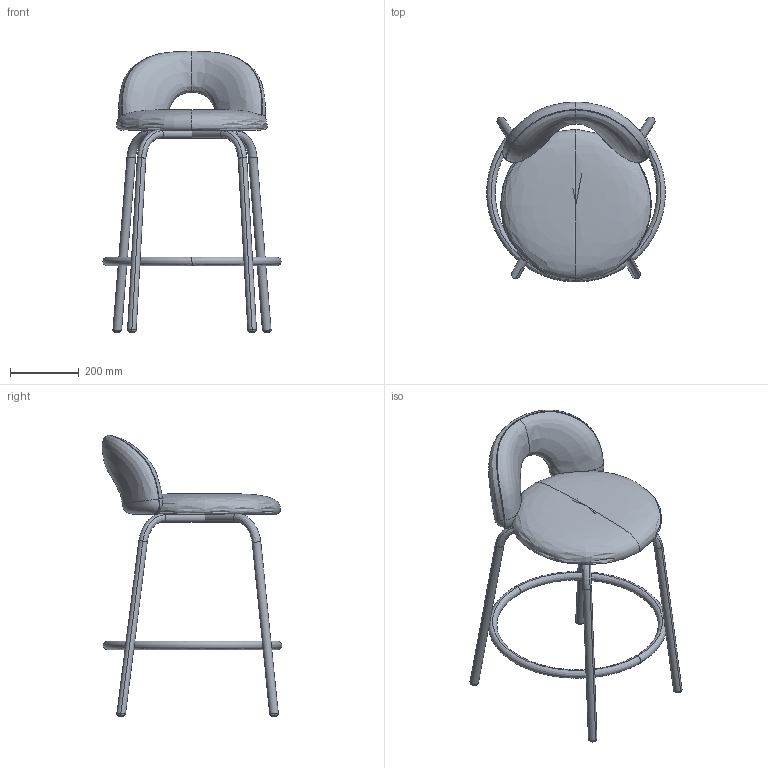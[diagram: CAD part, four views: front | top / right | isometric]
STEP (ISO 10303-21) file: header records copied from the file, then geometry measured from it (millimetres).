
FILE_DESCRIPTION(/* description */ (''),/* implementation_level */ '2;1');
FILE_NAME(/* name */ 'Paulin_M_SG_65_PabloReganoStudio',/* time_stamp */ '2026-04-02T07:29:50+02:00',/* author */ (''),/* organization */ (''),/* preprocessor_version */ 'ST-DEVELOPER v19.2',/* originating_system */ 'Rhino 8.5',/* authorisation */ '');
FILE_SCHEMA (('AP242_MANAGED_MODEL_BASED_3D_ENGINEERING_MIM_LF { 1 0 10303 442 3 1 4 }'));
Length unit declared in the file: millimetre
Products named in the file (1): Document
Bounding box: 520 x 523.23 x 819.54 mm (x, y, z)
Volume: 8360766.1 mm3; surface area: 1094852.6 mm2
Topology: 2 solids, 68 shells, 94 faces, 287 edges, 226 vertices
Faces by surface type: bspline 70, plane 12, cylinder 12
Entity records: 56309 total; most frequent: CARTESIAN_POINT 54468, ORIENTED_EDGE 334, EDGE_CURVE 280, VERTEX_POINT 226, DIRECTION 166, AXIS2_PLACEMENT_3D 95, ADVANCED_FACE 94, FACE_OUTER_BOUND 94
